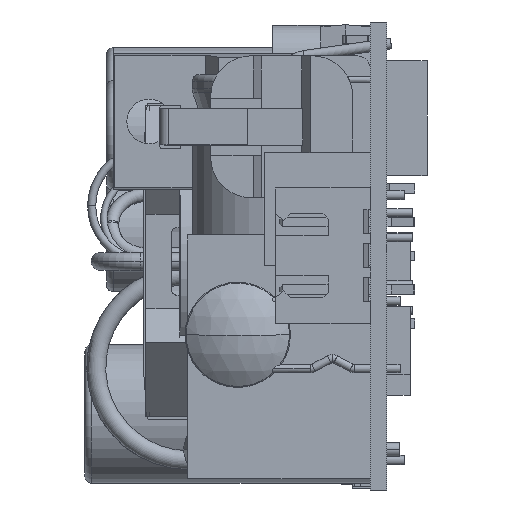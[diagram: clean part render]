
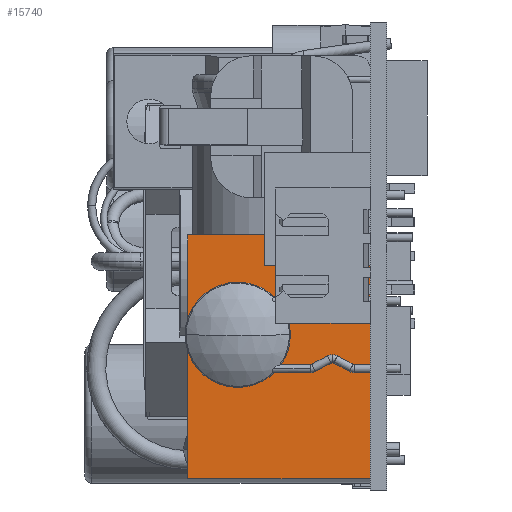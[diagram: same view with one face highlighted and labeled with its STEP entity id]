
A CAD part, left-side view. The second image highlights one B-rep face of the part: STEP entity #15740.
In plain terms, the highlighted planar face has unit normal (-1, 0, 0).
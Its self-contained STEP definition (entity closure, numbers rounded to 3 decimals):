
#578 = CARTESIAN_POINT ( 'NONE',  ( 43.055, 1.2, -117.219 ) ) ;
#590 = DIRECTION ( 'NONE',  ( 0., 0., 1. ) ) ;
#591 = VECTOR ( 'NONE', #590, 1000. ) ;
#592 = CARTESIAN_POINT ( 'NONE',  ( 43.055, 14.7, -117.219 ) ) ;
#593 = LINE ( 'NONE', #592, #591 ) ;
#666 = DIRECTION ( 'NONE',  ( 0., -1., 0. ) ) ;
#667 = VECTOR ( 'NONE', #666, 1000. ) ;
#668 = CARTESIAN_POINT ( 'NONE',  ( 43.055, 14.7, -135.253 ) ) ;
#670 = LINE ( 'NONE', #668, #667 ) ;
#715 = CARTESIAN_POINT ( 'NONE',  ( 43.055, 14.7, -117.219 ) ) ;
#764 = CARTESIAN_POINT ( 'NONE',  ( 43.055, 1.2, -135.253 ) ) ;
#765 = CARTESIAN_POINT ( 'NONE',  ( 43.055, 14.7, -135.253 ) ) ;
#766 = DIRECTION ( 'NONE',  ( 0., 0., 1. ) ) ;
#767 = VECTOR ( 'NONE', #766, 1000. ) ;
#768 = CARTESIAN_POINT ( 'NONE',  ( 43.055, 1.2, -117.219 ) ) ;
#769 = LINE ( 'NONE', #768, #767 ) ;
#783 = DIRECTION ( 'NONE',  ( 0., -1., 0. ) ) ;
#784 = VECTOR ( 'NONE', #783, 1000. ) ;
#785 = CARTESIAN_POINT ( 'NONE',  ( 43.055, 14.7, -117.219 ) ) ;
#786 = LINE ( 'NONE', #785, #784 ) ;
#1238 = FACE_OUTER_BOUND ( 'NONE', #15538, .T. ) ;
#1281 = DIRECTION ( 'NONE',  ( 0., 0., -1. ) ) ;
#1282 = DIRECTION ( 'NONE',  ( 1., 0., 0. ) ) ;
#1283 = AXIS2_PLACEMENT_3D ( 'NONE', #1284, #1282, #1281 ) ;
#1284 = CARTESIAN_POINT ( 'NONE',  ( 43.055, 14.7, -117.219 ) ) ;
#1285 = PLANE ( 'NONE',  #1283 ) ;
#15538 = EDGE_LOOP ( 'NONE', ( #15613, #15596, #15618, #15637 ) ) ;
#15549 = EDGE_CURVE ( 'NONE', #15619, #15597, #593, .T. ) ;
#15555 = VERTEX_POINT ( 'NONE', #578 ) ;
#15569 = EDGE_CURVE ( 'NONE', #15619, #15624, #670, .T. ) ;
#15596 = ORIENTED_EDGE ( 'NONE', *, *, #15636, .F. ) ;
#15597 = VERTEX_POINT ( 'NONE', #715 ) ;
#15613 = ORIENTED_EDGE ( 'NONE', *, *, #15616, .T. ) ;
#15616 = EDGE_CURVE ( 'NONE', #15624, #15555, #769, .T. ) ;
#15618 = ORIENTED_EDGE ( 'NONE', *, *, #15549, .F. ) ;
#15619 = VERTEX_POINT ( 'NONE', #765 ) ;
#15624 = VERTEX_POINT ( 'NONE', #764 ) ;
#15636 = EDGE_CURVE ( 'NONE', #15597, #15555, #786, .T. ) ;
#15637 = ORIENTED_EDGE ( 'NONE', *, *, #15569, .T. ) ;
#15740 = ADVANCED_FACE ( 'NONE', ( #1238 ), #1285, .F. ) ;
